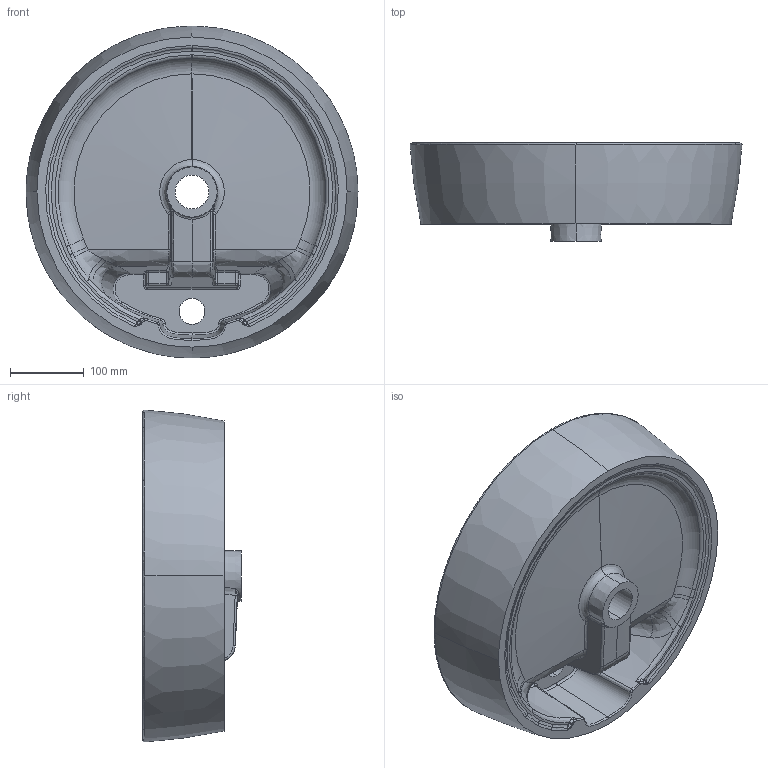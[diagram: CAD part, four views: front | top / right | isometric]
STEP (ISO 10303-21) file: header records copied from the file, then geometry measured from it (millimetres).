
FILE_DESCRIPTION (( 'STEP AP203' ), '1' );
FILE_NAME ('LP146-00SM00E-0000.STEP', '2023-01-23T11:58:49', ( '' ), ( '' ), 'SwSTEP 2.0', 'SolidWorks 2021', '' );
FILE_SCHEMA (( 'CONFIG_CONTROL_DESIGN' ));
Length unit declared in the file: millimetre
Products named in the file (1): LP146-00SM00E-0000
Bounding box: 449.66 x 133.29 x 449.65 mm (x, y, z)
Volume: 4799354.2 mm3; surface area: 613751.1 mm2
Topology: 2 solids, 2 shells, 258 faces, 626 edges, 360 vertices
Faces by surface type: bspline 109, cylinder 41, plane 35, cone 35, torus 32, sphere 6
Entity records: 16624 total; most frequent: CARTESIAN_POINT 11455, ORIENTED_EDGE 1228, DIRECTION 859, EDGE_CURVE 614, AXIS2_PLACEMENT_3D 366, VERTEX_POINT 362, EDGE_LOOP 266, ADVANCED_FACE 258
